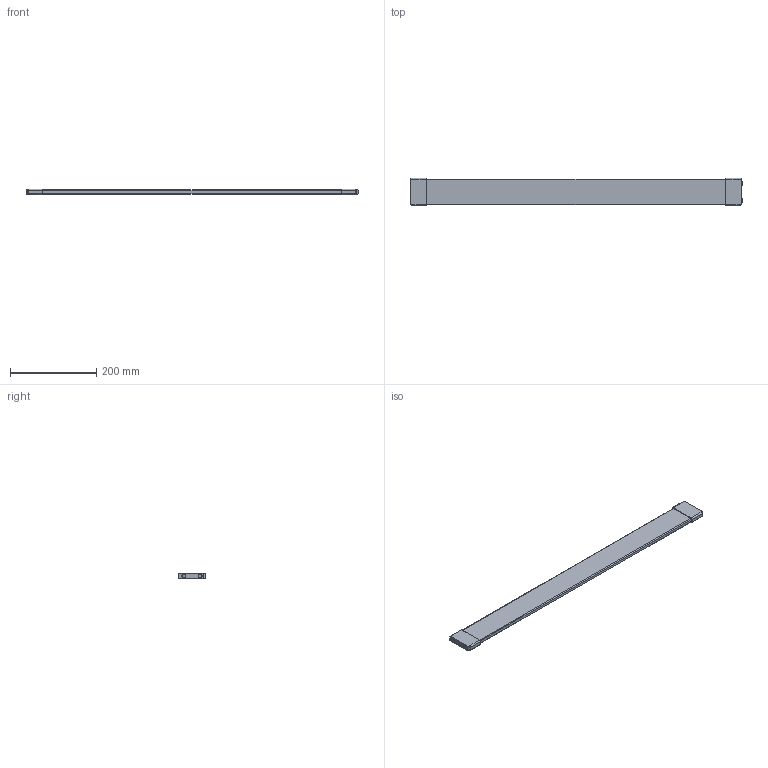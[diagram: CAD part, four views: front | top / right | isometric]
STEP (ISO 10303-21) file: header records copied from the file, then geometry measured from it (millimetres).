
FILE_DESCRIPTION (( 'STEP AP214' ), '1' );
FILE_NAME ('Schubkastenteiler_PROKAB_850.step', '2009-11-04T15:16:50', ( 'Waldinger Reinhard' ), ( 'Grass GmbH' ), 'SwSTEP 2.0', 'SolidWorks 2009', '' );
FILE_SCHEMA (( 'AUTOMOTIVE_DESIGN' ));
Length unit declared in the file: millimetre
Products named in the file (1): Schubkastenteiler_PROKAB_850
Bounding box: 767.9 x 63.7 x 13 mm (x, y, z)
Volume: 464367.6 mm3; surface area: 106993.7 mm2
Topology: 1 solids, 1 shells, 92 faces, 208 edges, 124 vertices
Faces by surface type: cylinder 38, torus 28, plane 22, bspline 4
Entity records: 3210 total; most frequent: CARTESIAN_POINT 1069, DIRECTION 486, ORIENTED_EDGE 416, EDGE_CURVE 208, AXIS2_PLACEMENT_3D 205, VERTEX_POINT 124, CIRCLE 116, EDGE_LOOP 98
